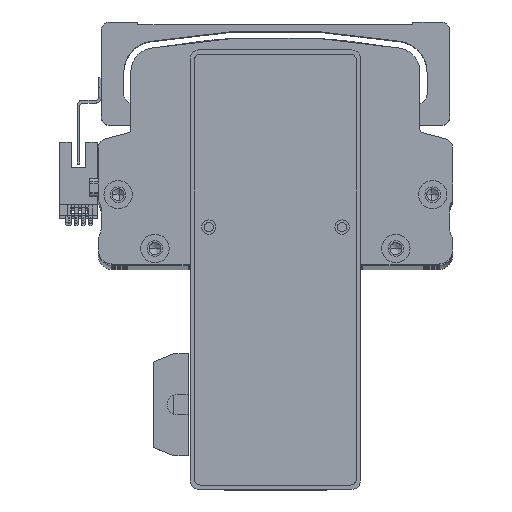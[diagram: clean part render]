
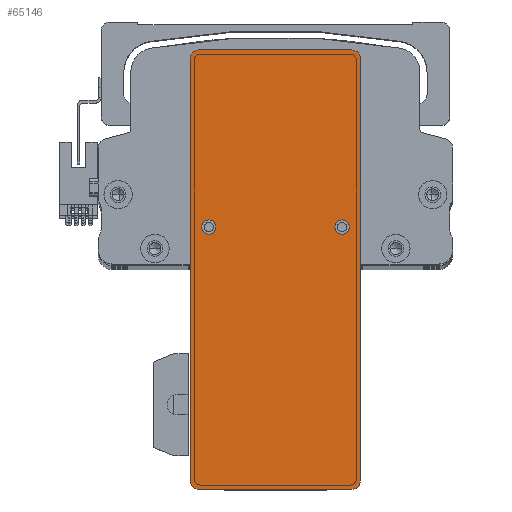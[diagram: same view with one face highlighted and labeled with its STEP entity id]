
A CAD part, top view. The second image highlights one B-rep face of the part: STEP entity #65146.
In plain terms, the highlighted planar face has unit normal (0, 0, 1) as drawn and (0, 0, -1) by its records, which use the part's own axes.
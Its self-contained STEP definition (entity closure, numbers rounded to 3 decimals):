
#1321 = CIRCLE ( 'NONE', #67229, 2.5 ) ;
#1590 = LINE ( 'NONE', #3570, #68672 ) ;
#2521 = DIRECTION ( 'NONE',  ( 0., 0., -1. ) ) ;
#2690 = EDGE_CURVE ( 'NONE', #26476, #19768, #42729, .T. ) ;
#3570 = CARTESIAN_POINT ( 'NONE',  ( 77.5, -30., 0. ) ) ;
#3853 = VERTEX_POINT ( 'NONE', #35694 ) ;
#4458 = DIRECTION ( 'NONE',  ( 0., 0., -1. ) ) ;
#5321 = CARTESIAN_POINT ( 'NONE',  ( 12.5, -23.5, 0. ) ) ;
#5602 = AXIS2_PLACEMENT_3D ( 'NONE', #13439, #57575, #19758 ) ;
#5901 = CARTESIAN_POINT ( 'NONE',  ( 77.5, -30., 0. ) ) ;
#6465 = AXIS2_PLACEMENT_3D ( 'NONE', #59244, #21471, #65581 ) ;
#6928 = CARTESIAN_POINT ( 'NONE',  ( -77.5, -30., 0. ) ) ;
#8631 = DIRECTION ( 'NONE',  ( -1., 0., 0. ) ) ;
#11205 = AXIS2_PLACEMENT_3D ( 'NONE', #23536, #67647, #29859 ) ;
#11339 = EDGE_LOOP ( 'NONE', ( #28560, #74316, #23359, #47809, #42167, #78373, #46493, #56505 ) ) ;
#12317 = DIRECTION ( 'NONE',  ( 0., 0., -1. ) ) ;
#12321 = VERTEX_POINT ( 'NONE', #78440 ) ;
#12928 = DIRECTION ( 'NONE',  ( 0., 0., -1. ) ) ;
#13304 = EDGE_CURVE ( 'NONE', #64361, #13556, #1321, .T. ) ;
#13439 = CARTESIAN_POINT ( 'NONE',  ( 74.5, -27., 0. ) ) ;
#13556 = VERTEX_POINT ( 'NONE', #69492 ) ;
#14056 = CARTESIAN_POINT ( 'NONE',  ( 77.5, -27., 0. ) ) ;
#15194 = ORIENTED_EDGE ( 'NONE', *, *, #58460, .F. ) ;
#17250 = VERTEX_POINT ( 'NONE', #78740 ) ;
#19080 = ORIENTED_EDGE ( 'NONE', *, *, #40981, .F. ) ;
#19451 = VECTOR ( 'NONE', #8631, 1000. ) ;
#19758 = DIRECTION ( 'NONE',  ( 1., 0., 0. ) ) ;
#19768 = VERTEX_POINT ( 'NONE', #29755 ) ;
#19857 = DIRECTION ( 'NONE',  ( 0., 0., 1. ) ) ;
#21017 = CARTESIAN_POINT ( 'NONE',  ( 77.5, 30., 0. ) ) ;
#21427 = CARTESIAN_POINT ( 'NONE',  ( 74.5, 30., 0. ) ) ;
#21471 = DIRECTION ( 'NONE',  ( 0., 0., -1. ) ) ;
#23359 = ORIENTED_EDGE ( 'NONE', *, *, #33945, .F. ) ;
#23536 = CARTESIAN_POINT ( 'NONE',  ( 15., 23.5, 0. ) ) ;
#26476 = VERTEX_POINT ( 'NONE', #74499 ) ;
#26591 = EDGE_CURVE ( 'NONE', #13556, #64361, #59489, .T. ) ;
#26611 = CARTESIAN_POINT ( 'NONE',  ( 77.5, 27., 0. ) ) ;
#26770 = EDGE_CURVE ( 'NONE', #3853, #41716, #71318, .T. ) ;
#28393 = AXIS2_PLACEMENT_3D ( 'NONE', #50153, #12317, #56442 ) ;
#28560 = ORIENTED_EDGE ( 'NONE', *, *, #56200, .F. ) ;
#29004 = DIRECTION ( 'NONE',  ( 0., 0., -1. ) ) ;
#29197 = AXIS2_PLACEMENT_3D ( 'NONE', #50761, #12928, #57081 ) ;
#29755 = CARTESIAN_POINT ( 'NONE',  ( -77.5, -27., 0. ) ) ;
#29859 = DIRECTION ( 'NONE',  ( -1., 0., 0. ) ) ;
#33945 = EDGE_CURVE ( 'NONE', #26476, #45185, #1590, .T. ) ;
#34359 = VECTOR ( 'NONE', #37338, 1000. ) ;
#35694 = CARTESIAN_POINT ( 'NONE',  ( -77.5, 27., 0. ) ) ;
#35924 = AXIS2_PLACEMENT_3D ( 'NONE', #57680, #19857, #64018 ) ;
#36227 = ORIENTED_EDGE ( 'NONE', *, *, #26591, .F. ) ;
#36262 = EDGE_CURVE ( 'NONE', #41745, #45185, #43474, .T. ) ;
#36338 = LINE ( 'NONE', #5901, #34359 ) ;
#37338 = DIRECTION ( 'NONE',  ( 0., 1., 0. ) ) ;
#40305 = CARTESIAN_POINT ( 'NONE',  ( 15., 23.5, 0. ) ) ;
#40604 = EDGE_LOOP ( 'NONE', ( #15194, #19080 ) ) ;
#40981 = EDGE_CURVE ( 'NONE', #12321, #17250, #61024, .T. ) ;
#41348 = EDGE_CURVE ( 'NONE', #45549, #41716, #69824, .T. ) ;
#41716 = VERTEX_POINT ( 'NONE', #70631 ) ;
#41745 = VERTEX_POINT ( 'NONE', #14056 ) ;
#42167 = ORIENTED_EDGE ( 'NONE', *, *, #52688, .F. ) ;
#42270 = CARTESIAN_POINT ( 'NONE',  ( 74.5, 27., 0. ) ) ;
#42729 = CIRCLE ( 'NONE', #28393, 3. ) ;
#43162 = EDGE_CURVE ( 'NONE', #45549, #54712, #57635, .T. ) ;
#43383 = ORIENTED_EDGE ( 'NONE', *, *, #13304, .F. ) ;
#43474 = CIRCLE ( 'NONE', #5602, 3. ) ;
#43808 = EDGE_LOOP ( 'NONE', ( #43383, #36227 ) ) ;
#45185 = VERTEX_POINT ( 'NONE', #74454 ) ;
#45549 = VERTEX_POINT ( 'NONE', #21427 ) ;
#46493 = ORIENTED_EDGE ( 'NONE', *, *, #41348, .F. ) ;
#46640 = DIRECTION ( 'NONE',  ( -1., 0., 0. ) ) ;
#47705 = DIRECTION ( 'NONE',  ( 1., 0., 0. ) ) ;
#47809 = ORIENTED_EDGE ( 'NONE', *, *, #2690, .T. ) ;
#48274 = FACE_OUTER_BOUND ( 'NONE', #11339, .T. ) ;
#48586 = DIRECTION ( 'NONE',  ( 1., 0., 0. ) ) ;
#50153 = CARTESIAN_POINT ( 'NONE',  ( -74.5, -27., 0. ) ) ;
#50761 = CARTESIAN_POINT ( 'NONE',  ( 15., -23.5, 0. ) ) ;
#51113 = PLANE ( 'NONE',  #35924 ) ;
#52688 = EDGE_CURVE ( 'NONE', #3853, #19768, #79238, .T. ) ;
#54712 = VERTEX_POINT ( 'NONE', #26611 ) ;
#56200 = EDGE_CURVE ( 'NONE', #41745, #54712, #36338, .T. ) ;
#56442 = DIRECTION ( 'NONE',  ( 1., 0., 0. ) ) ;
#56505 = ORIENTED_EDGE ( 'NONE', *, *, #43162, .T. ) ;
#57081 = DIRECTION ( 'NONE',  ( -1., 0., 0. ) ) ;
#57575 = DIRECTION ( 'NONE',  ( 0., 0., -1. ) ) ;
#57635 = CIRCLE ( 'NONE', #81183, 3. ) ;
#57680 = CARTESIAN_POINT ( 'NONE',  ( 0., 0., 0. ) ) ;
#58460 = EDGE_CURVE ( 'NONE', #17250, #12321, #80535, .T. ) ;
#59244 = CARTESIAN_POINT ( 'NONE',  ( -74.5, 27., 0. ) ) ;
#59489 = CIRCLE ( 'NONE', #29197, 2.5 ) ;
#60446 = VECTOR ( 'NONE', #63741, 1000. ) ;
#61024 = CIRCLE ( 'NONE', #11205, 2.5 ) ;
#63057 = FACE_BOUND ( 'NONE', #40604, .T. ) ;
#63741 = DIRECTION ( 'NONE',  ( 0., -1., 0. ) ) ;
#64018 = DIRECTION ( 'NONE',  ( 1., 0., 0. ) ) ;
#64361 = VERTEX_POINT ( 'NONE', #5321 ) ;
#65146 = ADVANCED_FACE ( 'NONE', ( #63057, #79828, #48274 ), #51113, .F. ) ;
#65581 = DIRECTION ( 'NONE',  ( 1., 0., 0. ) ) ;
#66770 = CARTESIAN_POINT ( 'NONE',  ( 15., -23.5, 0. ) ) ;
#67229 = AXIS2_PLACEMENT_3D ( 'NONE', #66770, #29004, #73123 ) ;
#67647 = DIRECTION ( 'NONE',  ( 0., 0., -1. ) ) ;
#68672 = VECTOR ( 'NONE', #47705, 1000. ) ;
#69492 = CARTESIAN_POINT ( 'NONE',  ( 17.5, -23.5, 0. ) ) ;
#69824 = LINE ( 'NONE', #21017, #19451 ) ;
#70631 = CARTESIAN_POINT ( 'NONE',  ( -74.5, 30., 0. ) ) ;
#71318 = CIRCLE ( 'NONE', #6465, 3. ) ;
#73123 = DIRECTION ( 'NONE',  ( -1., 0., 0. ) ) ;
#74316 = ORIENTED_EDGE ( 'NONE', *, *, #36262, .T. ) ;
#74454 = CARTESIAN_POINT ( 'NONE',  ( 74.5, -30., 0. ) ) ;
#74499 = CARTESIAN_POINT ( 'NONE',  ( -74.5, -30., 0. ) ) ;
#78373 = ORIENTED_EDGE ( 'NONE', *, *, #26770, .T. ) ;
#78440 = CARTESIAN_POINT ( 'NONE',  ( 17.5, 23.5, 0. ) ) ;
#78740 = CARTESIAN_POINT ( 'NONE',  ( 12.5, 23.5, 0. ) ) ;
#79238 = LINE ( 'NONE', #6928, #60446 ) ;
#79727 = AXIS2_PLACEMENT_3D ( 'NONE', #40305, #2521, #46640 ) ;
#79828 = FACE_BOUND ( 'NONE', #43808, .T. ) ;
#80535 = CIRCLE ( 'NONE', #79727, 2.5 ) ;
#81183 = AXIS2_PLACEMENT_3D ( 'NONE', #42270, #4458, #48586 ) ;
